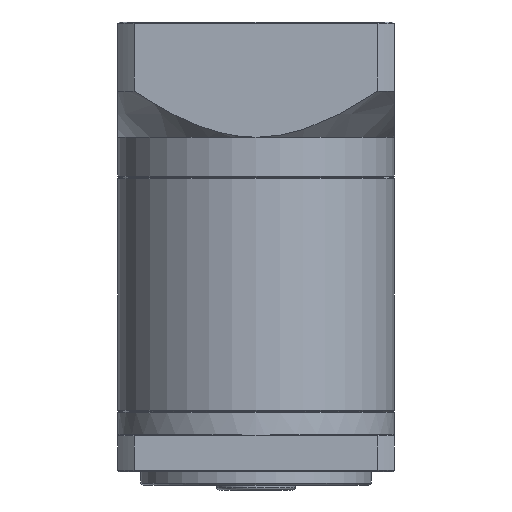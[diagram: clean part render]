
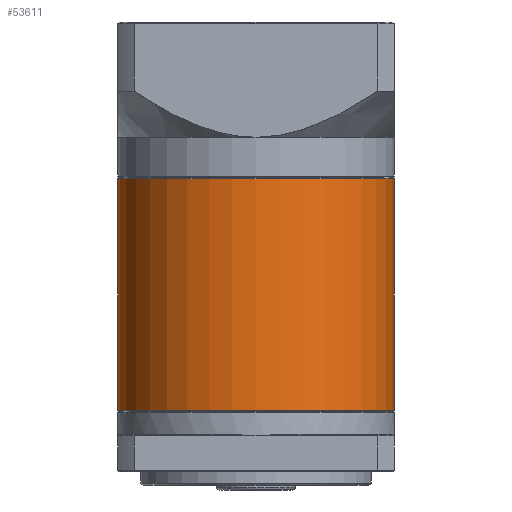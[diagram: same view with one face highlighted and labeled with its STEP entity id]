
A CAD part, front view. The second image highlights one B-rep face of the part: STEP entity #53611.
In plain terms, the highlighted cylindrical face has radius 30 mm (diameter 60 mm), a partial arc.
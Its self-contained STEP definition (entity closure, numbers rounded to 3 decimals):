
#35 = CARTESIAN_POINT ( 'NONE',  ( -36.425, 14.93, 4.12 ) ) ;
#752 = CARTESIAN_POINT ( 'NONE',  ( -66.425, 14.93, -46.18 ) ) ;
#988 = VECTOR ( 'NONE', #26864, 1000. ) ;
#1610 = ORIENTED_EDGE ( 'NONE', *, *, #58807, .T. ) ;
#5790 = CYLINDRICAL_SURFACE ( 'NONE', #82204, 30. ) ;
#6843 = DIRECTION ( 'NONE',  ( -1., 0., 0. ) ) ;
#7722 = DIRECTION ( 'NONE',  ( 1., 0., 0. ) ) ;
#13514 = DIRECTION ( 'NONE',  ( 0., 0., -1. ) ) ;
#19889 = CARTESIAN_POINT ( 'NONE',  ( -36.425, 14.93, 4.37 ) ) ;
#20502 = CARTESIAN_POINT ( 'NONE',  ( -66.425, 14.93, 4.37 ) ) ;
#26864 = DIRECTION ( 'NONE',  ( 0., 0., -1. ) ) ;
#34437 = CIRCLE ( 'NONE', #37501, 30. ) ;
#36584 = CARTESIAN_POINT ( 'NONE',  ( -96.425, 14.93, 4.37 ) ) ;
#36660 = VERTEX_POINT ( 'NONE', #35 ) ;
#36850 = DIRECTION ( 'NONE',  ( 0., 0., -1. ) ) ;
#37082 = CARTESIAN_POINT ( 'NONE',  ( -96.425, 14.93, -46.18 ) ) ;
#37501 = AXIS2_PLACEMENT_3D ( 'NONE', #78184, #36850, #85120 ) ;
#38728 = EDGE_CURVE ( 'NONE', #41503, #67145, #67068, .T. ) ;
#41503 = VERTEX_POINT ( 'NONE', #37082 ) ;
#49106 = DIRECTION ( 'NONE',  ( 0., 0., 1. ) ) ;
#49887 = EDGE_CURVE ( 'NONE', #36660, #67145, #56213, .T. ) ;
#50191 = CARTESIAN_POINT ( 'NONE',  ( -36.425, 14.93, -46.18 ) ) ;
#52173 = EDGE_CURVE ( 'NONE', #36660, #65817, #34437, .T. ) ;
#53611 = ADVANCED_FACE ( 'NONE', ( #85787 ), #5790, .T. ) ;
#55454 = LINE ( 'NONE', #36584, #71660 ) ;
#56213 = LINE ( 'NONE', #19889, #988 ) ;
#58807 = EDGE_CURVE ( 'NONE', #65817, #41503, #55454, .T. ) ;
#64047 = DIRECTION ( 'NONE',  ( 0., 0., -1. ) ) ;
#65817 = VERTEX_POINT ( 'NONE', #70915 ) ;
#67068 = CIRCLE ( 'NONE', #88591, 30. ) ;
#67145 = VERTEX_POINT ( 'NONE', #50191 ) ;
#70846 = ORIENTED_EDGE ( 'NONE', *, *, #38728, .T. ) ;
#70915 = CARTESIAN_POINT ( 'NONE',  ( -96.425, 14.93, 4.12 ) ) ;
#71045 = ORIENTED_EDGE ( 'NONE', *, *, #49887, .F. ) ;
#71660 = VECTOR ( 'NONE', #64047, 1000. ) ;
#74503 = ORIENTED_EDGE ( 'NONE', *, *, #52173, .T. ) ;
#78184 = CARTESIAN_POINT ( 'NONE',  ( -66.425, 14.93, 4.12 ) ) ;
#82204 = AXIS2_PLACEMENT_3D ( 'NONE', #20502, #13514, #6843 ) ;
#83658 = EDGE_LOOP ( 'NONE', ( #71045, #74503, #1610, #70846 ) ) ;
#85120 = DIRECTION ( 'NONE',  ( 1., 0., 0. ) ) ;
#85787 = FACE_OUTER_BOUND ( 'NONE', #83658, .T. ) ;
#88591 = AXIS2_PLACEMENT_3D ( 'NONE', #752, #49106, #7722 ) ;
